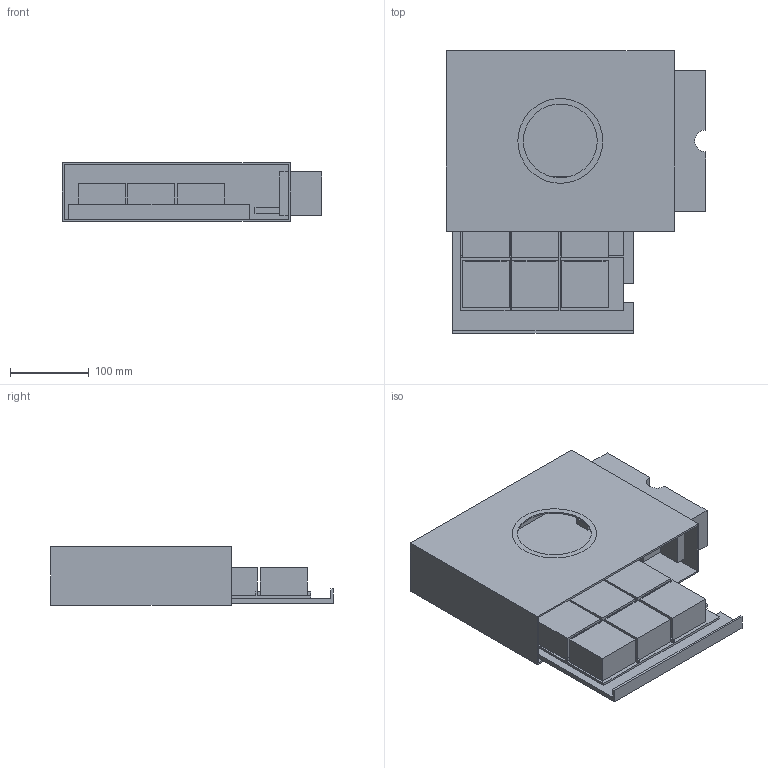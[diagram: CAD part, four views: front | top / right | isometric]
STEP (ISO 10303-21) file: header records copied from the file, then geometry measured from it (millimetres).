
FILE_DESCRIPTION(('FreeCAD Model'),'2;1');
FILE_NAME('Open CASCADE Shape Model','2026-10-01T18:12:19',('Author'),( ''),'Open CASCADE STEP processor 7.8','FreeCAD','Unknown');
FILE_SCHEMA(('AUTOMOTIVE_DESIGN { 1 0 10303 214 1 1 1 1 }'));
Length unit declared in the file: millimetre
Products named in the file (14): Jiewei_open; outer_sleeve; wei_drawer; lock_key_left; lock_key_right; zhao_tray; inner_liner; moon_disc; sku_proxy_01; sku_proxy_02; sku_proxy_03; sku_proxy_04; sku_proxy_05; sku_proxy_06
Assembly tree (13 placements, depth 2):
  Jiewei_open
    outer_sleeve
    wei_drawer
    lock_key_left
    lock_key_right
    zhao_tray
    inner_liner
    moon_disc
    sku_proxy_01
    sku_proxy_02
    sku_proxy_03
    sku_proxy_04
    sku_proxy_05
    sku_proxy_06
Bounding box: 330 x 360 x 75 mm (x, y, z)
Volume: 2066794.1 mm3; surface area: 668669.5 mm2
Topology: 13 solids, 13 shells, 146 faces, 357 edges, 238 vertices
Faces by surface type: plane 142, cylinder 4
Full cylindrical faces by diameter (mm): 94 x1, 108 x2
Entity records: 4437 total; most frequent: CARTESIAN_POINT 755, ORIENTED_EDGE 714, DIRECTION 685, EDGE_CURVE 357, LINE 349, VECTOR 349, VERTEX_POINT 238, AXIS2_PLACEMENT_3D 168
